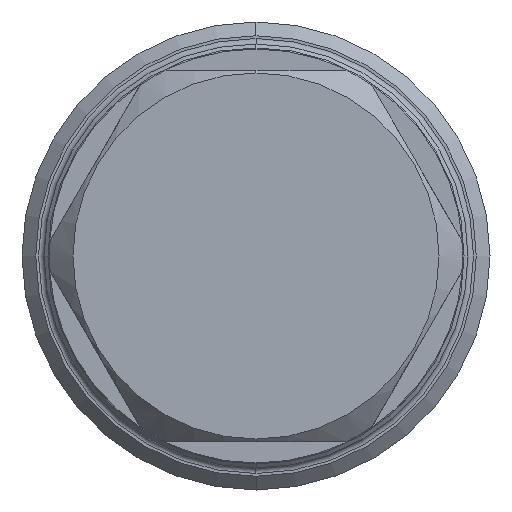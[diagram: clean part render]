
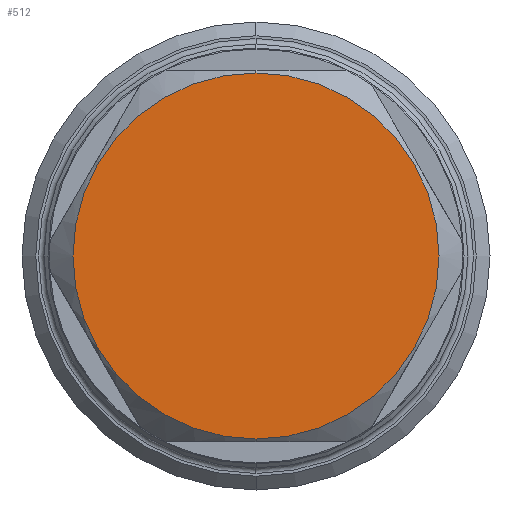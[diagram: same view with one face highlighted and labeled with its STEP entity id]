
A CAD part, left-side view. The second image highlights one B-rep face of the part: STEP entity #512.
In plain terms, the highlighted planar face has unit normal (-1, 0, 0).
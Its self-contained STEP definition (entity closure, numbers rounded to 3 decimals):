
#211 = AXIS2_PLACEMENT_3D ( 'NONE', #2111, #1775, #625 ) ;
#247 = AXIS2_PLACEMENT_3D ( 'NONE', #446, #1759, #2102 ) ;
#411 = ORIENTED_EDGE ( 'NONE', *, *, #620, .F. ) ;
#429 = CIRCLE ( 'NONE', #568, 13.3 ) ;
#446 = CARTESIAN_POINT ( 'NONE',  ( -30., 13.3, 0. ) ) ;
#512 = ADVANCED_FACE ( 'NONE', ( #1644 ), #1568, .T. ) ;
#568 = AXIS2_PLACEMENT_3D ( 'NONE', #1582, #1603, #1756 ) ;
#620 = EDGE_CURVE ( 'NONE', #2128, #1267, #1556, .T. ) ;
#625 = DIRECTION ( 'NONE',  ( 0., 0., -1. ) ) ;
#995 = ORIENTED_EDGE ( 'NONE', *, *, #1942, .F. ) ;
#1267 = VERTEX_POINT ( 'NONE', #1837 ) ;
#1556 = CIRCLE ( 'NONE', #211, 13.3 ) ;
#1568 = PLANE ( 'NONE',  #247 ) ;
#1582 = CARTESIAN_POINT ( 'NONE',  ( -30., 0., 0. ) ) ;
#1603 = DIRECTION ( 'NONE',  ( 1., 0., 0. ) ) ;
#1609 = CARTESIAN_POINT ( 'NONE',  ( -30., 0., -13.3 ) ) ;
#1644 = FACE_OUTER_BOUND ( 'NONE', #1702, .T. ) ;
#1702 = EDGE_LOOP ( 'NONE', ( #411, #995 ) ) ;
#1756 = DIRECTION ( 'NONE',  ( 0., 0., -1. ) ) ;
#1759 = DIRECTION ( 'NONE',  ( -1., 0., 0. ) ) ;
#1775 = DIRECTION ( 'NONE',  ( 1., 0., 0. ) ) ;
#1837 = CARTESIAN_POINT ( 'NONE',  ( -30., 0., 13.3 ) ) ;
#1942 = EDGE_CURVE ( 'NONE', #1267, #2128, #429, .T. ) ;
#2102 = DIRECTION ( 'NONE',  ( 0., 0., 1. ) ) ;
#2111 = CARTESIAN_POINT ( 'NONE',  ( -30., 0., 0. ) ) ;
#2128 = VERTEX_POINT ( 'NONE', #1609 ) ;
